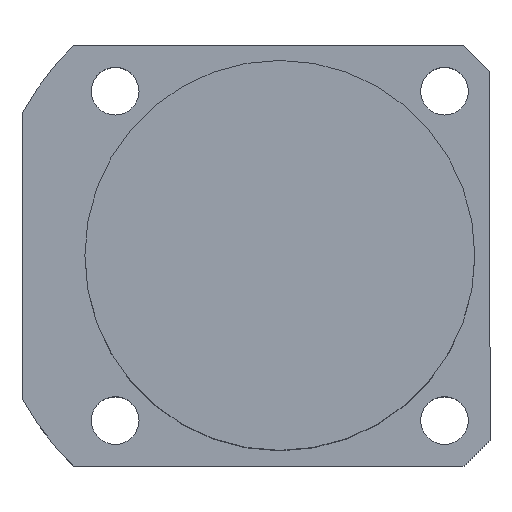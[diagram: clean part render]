
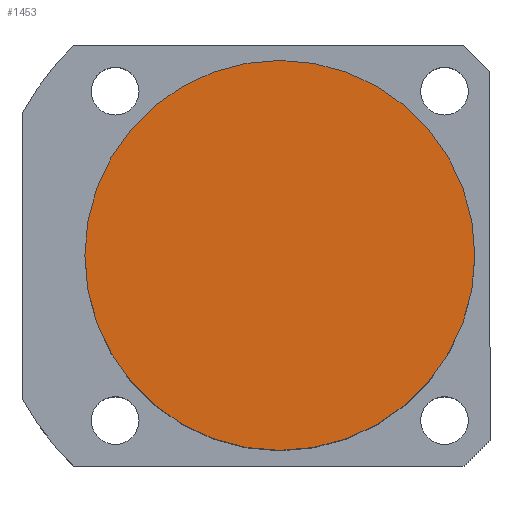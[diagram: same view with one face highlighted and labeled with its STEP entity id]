
A CAD part, top view. The second image highlights one B-rep face of the part: STEP entity #1453.
In plain terms, the highlighted planar face has unit normal (0, 0, 1).
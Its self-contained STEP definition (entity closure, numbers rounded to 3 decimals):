
#119 = AXIS2_PLACEMENT_3D ( 'NONE', #1631, #444, #744 ) ;
#201 = DIRECTION ( 'NONE',  ( 0., 0., 1. ) ) ;
#266 = AXIS2_PLACEMENT_3D ( 'NONE', #921, #1341, #1482 ) ;
#360 = VERTEX_POINT ( 'NONE', #497 ) ;
#400 = CIRCLE ( 'NONE', #119, 45. ) ;
#404 = EDGE_LOOP ( 'NONE', ( #1434, #1816 ) ) ;
#444 = DIRECTION ( 'NONE',  ( 0., 0., 1. ) ) ;
#497 = CARTESIAN_POINT ( 'NONE',  ( -45., 0., 74.5 ) ) ;
#498 = CIRCLE ( 'NONE', #531, 45. ) ;
#531 = AXIS2_PLACEMENT_3D ( 'NONE', #1117, #201, #1689 ) ;
#667 = VERTEX_POINT ( 'NONE', #1315 ) ;
#744 = DIRECTION ( 'NONE',  ( 1., 0., 0. ) ) ;
#768 = EDGE_CURVE ( 'NONE', #360, #667, #400, .T. ) ;
#921 = CARTESIAN_POINT ( 'NONE',  ( 0., 0., 74.5 ) ) ;
#1056 = EDGE_CURVE ( 'NONE', #667, #360, #498, .T. ) ;
#1117 = CARTESIAN_POINT ( 'NONE',  ( 0., 0., 74.5 ) ) ;
#1177 = FACE_OUTER_BOUND ( 'NONE', #404, .T. ) ;
#1315 = CARTESIAN_POINT ( 'NONE',  ( 45., 0., 74.5 ) ) ;
#1341 = DIRECTION ( 'NONE',  ( 0., 0., 1. ) ) ;
#1434 = ORIENTED_EDGE ( 'NONE', *, *, #768, .T. ) ;
#1453 = ADVANCED_FACE ( 'NONE', ( #1177 ), #1497, .T. ) ;
#1482 = DIRECTION ( 'NONE',  ( 1., 0., 0. ) ) ;
#1497 = PLANE ( 'NONE',  #266 ) ;
#1631 = CARTESIAN_POINT ( 'NONE',  ( 0., 0., 74.5 ) ) ;
#1689 = DIRECTION ( 'NONE',  ( 1., 0., 0. ) ) ;
#1816 = ORIENTED_EDGE ( 'NONE', *, *, #1056, .T. ) ;
